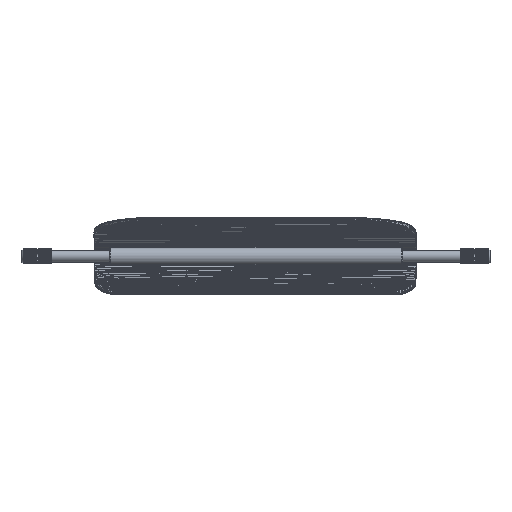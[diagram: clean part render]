
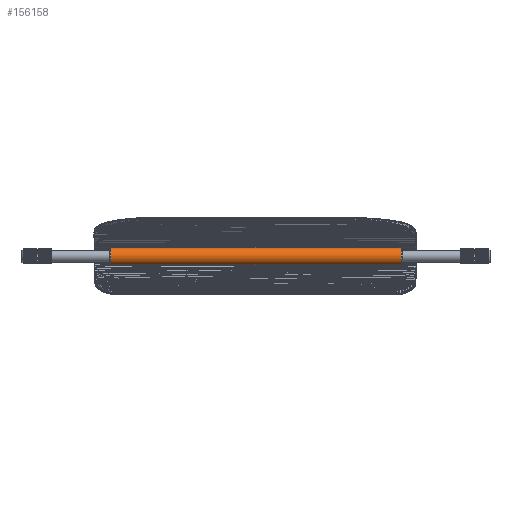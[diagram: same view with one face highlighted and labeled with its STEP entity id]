
A CAD part, front view. The second image highlights one B-rep face of the part: STEP entity #156158.
In plain terms, the highlighted cylindrical face has radius 15 mm (diameter 30 mm), a partial arc.
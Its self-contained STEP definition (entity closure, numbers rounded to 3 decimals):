
#5034 = VECTOR ( 'NONE', #127596, 1000. ) ;
#6658 = DIRECTION ( 'NONE',  ( -1., 0., 0. ) ) ;
#7563 = CYLINDRICAL_SURFACE ( 'NONE', #39881, 15. ) ;
#8437 = CARTESIAN_POINT ( 'NONE',  ( 27., 105.913, -52. ) ) ;
#9035 = VERTEX_POINT ( 'NONE', #8437 ) ;
#23133 = VERTEX_POINT ( 'NONE', #147156 ) ;
#27603 = CARTESIAN_POINT ( 'NONE',  ( 525., 105.913, -82. ) ) ;
#30991 = LINE ( 'NONE', #27603, #5034 ) ;
#31151 = ORIENTED_EDGE ( 'NONE', *, *, #132025, .T. ) ;
#31499 = EDGE_CURVE ( 'NONE', #23133, #155353, #30991, .T. ) ;
#31691 = DIRECTION ( 'NONE',  ( 0., 0., -1. ) ) ;
#39881 = AXIS2_PLACEMENT_3D ( 'NONE', #158844, #83905, #134801 ) ;
#50351 = CIRCLE ( 'NONE', #163758, 15. ) ;
#57363 = CARTESIAN_POINT ( 'NONE',  ( 523., 105.913, -52. ) ) ;
#63527 = FACE_OUTER_BOUND ( 'NONE', #143906, .T. ) ;
#64838 = ORIENTED_EDGE ( 'NONE', *, *, #144559, .T. ) ;
#65658 = ORIENTED_EDGE ( 'NONE', *, *, #73757, .T. ) ;
#69181 = CARTESIAN_POINT ( 'NONE',  ( 525., 105.913, -52. ) ) ;
#71371 = DIRECTION ( 'NONE',  ( -1., 0., 0. ) ) ;
#71927 = ORIENTED_EDGE ( 'NONE', *, *, #31499, .F. ) ;
#73757 = EDGE_CURVE ( 'NONE', #23133, #148179, #83082, .T. ) ;
#83082 = CIRCLE ( 'NONE', #124122, 15. ) ;
#83905 = DIRECTION ( 'NONE',  ( -1., 0., 0. ) ) ;
#87364 = VECTOR ( 'NONE', #6658, 1000. ) ;
#95261 = CARTESIAN_POINT ( 'NONE',  ( 27., 105.913, -67. ) ) ;
#98684 = CARTESIAN_POINT ( 'NONE',  ( 523., 105.913, -67. ) ) ;
#108169 = DIRECTION ( 'NONE',  ( 1., 0., 0. ) ) ;
#123327 = DIRECTION ( 'NONE',  ( 0., 0., -1. ) ) ;
#124122 = AXIS2_PLACEMENT_3D ( 'NONE', #98684, #71371, #123327 ) ;
#127596 = DIRECTION ( 'NONE',  ( -1., 0., 0. ) ) ;
#132025 = EDGE_CURVE ( 'NONE', #9035, #155353, #50351, .T. ) ;
#134801 = DIRECTION ( 'NONE',  ( 0., 0., 1. ) ) ;
#143906 = EDGE_LOOP ( 'NONE', ( #71927, #65658, #64838, #31151 ) ) ;
#144559 = EDGE_CURVE ( 'NONE', #148179, #9035, #155419, .T. ) ;
#147156 = CARTESIAN_POINT ( 'NONE',  ( 523., 105.913, -82. ) ) ;
#148179 = VERTEX_POINT ( 'NONE', #57363 ) ;
#155353 = VERTEX_POINT ( 'NONE', #163303 ) ;
#155419 = LINE ( 'NONE', #69181, #87364 ) ;
#156158 = ADVANCED_FACE ( 'NONE', ( #63527 ), #7563, .T. ) ;
#158844 = CARTESIAN_POINT ( 'NONE',  ( 525., 105.913, -67. ) ) ;
#163303 = CARTESIAN_POINT ( 'NONE',  ( 27., 105.913, -82. ) ) ;
#163758 = AXIS2_PLACEMENT_3D ( 'NONE', #95261, #108169, #31691 ) ;
